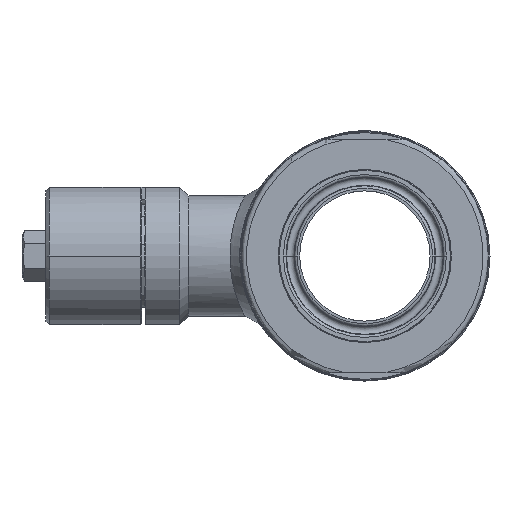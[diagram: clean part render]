
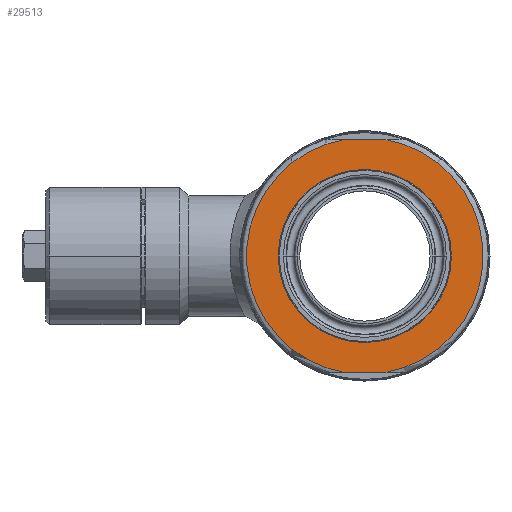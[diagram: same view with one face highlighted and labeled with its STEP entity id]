
A CAD part, left-side view. The second image highlights one B-rep face of the part: STEP entity #29513.
In plain terms, the highlighted planar face has unit normal (-1, 0, 0).
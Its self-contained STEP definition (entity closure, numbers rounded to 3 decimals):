
#1897=CARTESIAN_POINT('',(-44.,5.852,34.));
#1924=CARTESIAN_POINT('',(-44.,0.,0.));
#1925=DIRECTION('',(-1.,0.,0.));
#1926=DIRECTION('',(0.,0.17,0.986));
#1927=AXIS2_PLACEMENT_3D('',#1924,#1925,#1926);
#1932=CARTESIAN_POINT('',(-44.,5.852,-34.));
#1980=DIRECTION('',(0.,-1.,0.));
#1981=VECTOR('',#1980,11.705);
#1982=CARTESIAN_POINT('',(-44.,5.852,34.));
#1983=LINE('',#1982,#1981);
#1987=DIRECTION('',(0.,-1.,0.));
#1988=VECTOR('',#1987,11.705);
#1989=CARTESIAN_POINT('',(-44.,5.852,-34.));
#1990=LINE('',#1989,#1988);
#1994=CARTESIAN_POINT('',(-44.,0.,0.));
#1995=DIRECTION('',(-1.,0.,0.));
#1996=DIRECTION('',(0.,-0.17,-0.986));
#1997=AXIS2_PLACEMENT_3D('',#1994,#1995,#1996);
#2002=CARTESIAN_POINT('',(-44.,-5.852,34.));
#2045=CARTESIAN_POINT('',(-44.,-5.852,-34.));
#2093=CARTESIAN_POINT('',(-44.,0.,0.));
#2094=DIRECTION('',(-1.,0.,0.));
#2095=DIRECTION('',(0.,-1.,0.));
#2096=AXIS2_PLACEMENT_3D('',#2093,#2094,#2095);
#2125=CARTESIAN_POINT('',(-44.,0.,0.));
#2126=DIRECTION('',(-1.,0.,0.));
#2127=DIRECTION('',(0.,1.,0.));
#2128=AXIS2_PLACEMENT_3D('',#2125,#2126,#2127);
#27350=CARTESIAN_POINT('',(-44.,24.,0.));
#27351=CARTESIAN_POINT('',(-44.,-24.,0.));
#27352=VERTEX_POINT('',#27350);
#27353=VERTEX_POINT('',#27351);
#27446=VERTEX_POINT('',#1932);
#27449=VERTEX_POINT('',#1897);
#27454=VERTEX_POINT('',#2045);
#27457=VERTEX_POINT('',#2002);
#29494=CARTESIAN_POINT('',(-44.,0.,0.));
#29495=DIRECTION('',(-1.,0.,0.));
#29496=DIRECTION('',(0.,-1.,0.));
#29497=AXIS2_PLACEMENT_3D('',#29494,#29495,#29496);
#29498=PLANE('',#29497);
#29499=ORIENTED_EDGE('',*,*,#29482,.T.);
#29501=ORIENTED_EDGE('',*,*,#29500,.F.);
#29503=ORIENTED_EDGE('',*,*,#29502,.F.);
#29504=ORIENTED_EDGE('',*,*,#29470,.F.);
#29505=EDGE_LOOP('',(#29499,#29501,#29503,#29504));
#29506=FACE_OUTER_BOUND('',#29505,.F.);
#29508=ORIENTED_EDGE('',*,*,#29507,.T.);
#29510=ORIENTED_EDGE('',*,*,#29509,.T.);
#29511=EDGE_LOOP('',(#29508,#29510));
#29512=FACE_BOUND('',#29511,.F.);
#29513=ADVANCED_FACE('',(#29506,#29512),#29498,.T.);
#1928=CIRCLE('',#1927,34.5);
#1998=CIRCLE('',#1997,34.5);
#2097=CIRCLE('',#2096,24.);
#2129=CIRCLE('',#2128,24.);
#29470=EDGE_CURVE('',#27449,#27446,#1928,.T.);
#29482=EDGE_CURVE('',#27449,#27457,#1983,.T.);
#29500=EDGE_CURVE('',#27454,#27457,#1998,.T.);
#29502=EDGE_CURVE('',#27446,#27454,#1990,.T.);
#29507=EDGE_CURVE('',#27353,#27352,#2097,.T.);
#29509=EDGE_CURVE('',#27352,#27353,#2129,.T.);
